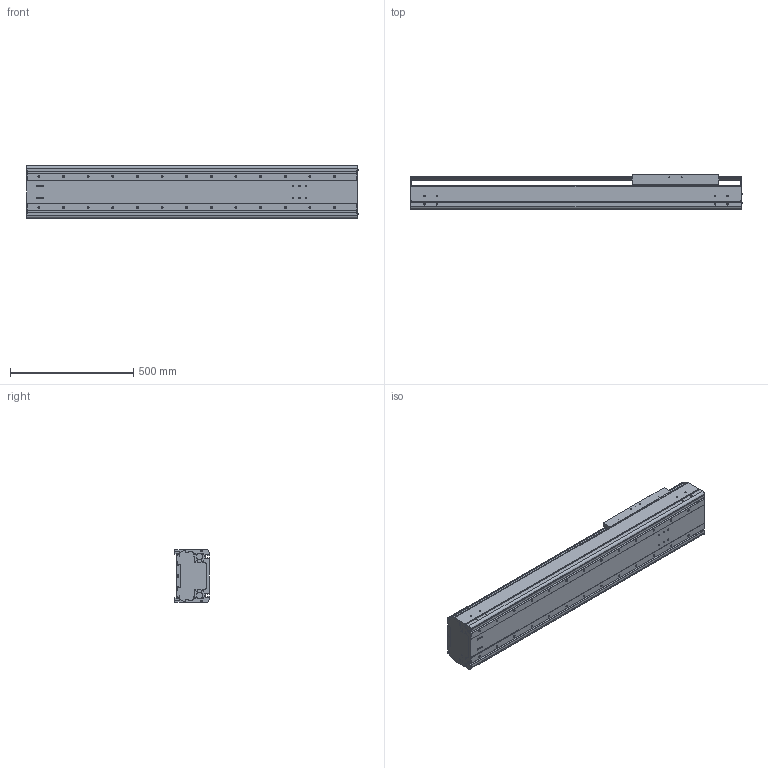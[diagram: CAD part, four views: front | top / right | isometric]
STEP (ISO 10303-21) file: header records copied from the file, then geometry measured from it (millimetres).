
FILE_DESCRIPTION((''),'2;1');
FILE_NAME('BE60G-ST-L_B-85_IGS_PRT','2017-06-18T',(' '),(''),'PRO/ENGINEER BY PARAMETRIC TECHNOLOGY CORPORATION, 2015030','PRO/ENGINEER BY PARAMETRIC TECHNOLOGY CORPORATION, 2015030','');
FILE_SCHEMA(('CONFIG_CONTROL_DESIGN'));
Length unit declared in the file: millimetre
Products named in the file (1): BE60G-ST-L_B-85_IGS_PRT
Bounding box: 1347.4 x 140 x 214 mm (x, y, z)
Volume: 11288820.9 mm3; surface area: 2955614.7 mm2
Topology: 2 solids, 140 shells, 1562 faces, 4344 edges, 2848 vertices
Faces by surface type: cylinder 792, plane 610, cone 112, sphere 24, torus 24
Entity records: 51886 total; most frequent: CARTESIAN_POINT 11636, DIRECTION 8478, ORIENTED_EDGE 7928, EDGE_CURVE 4236, AXIS2_PLACEMENT_3D 3155, VERTEX_POINT 2848, VECTOR 2168, LINE 2168
